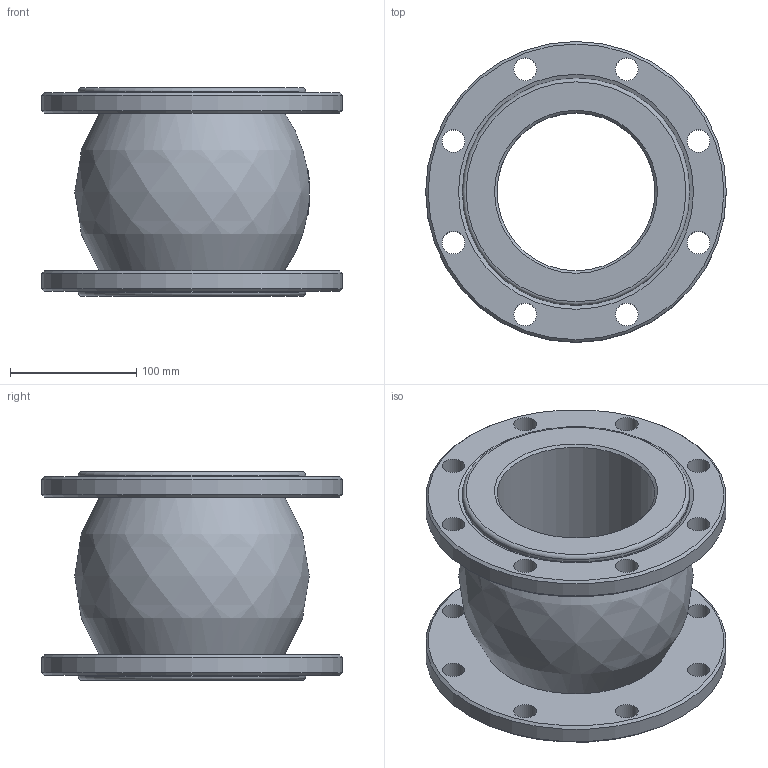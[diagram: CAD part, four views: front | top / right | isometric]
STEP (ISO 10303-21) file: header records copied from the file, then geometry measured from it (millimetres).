
FILE_DESCRIPTION(/* description */ ('D140-02177','CAx-IF Rec.Pracs.---Representation and Presentation of Product Manufacturing Information (PMI)---4.0---2014-10-13'),/* implementation_level */ '2;1');
FILE_NAME(/* name */ '',/* time_stamp */ '2026-04-30T11:21:57+03:00',/* author */ ('DN.RU'),/* organization */ ('DN.RU'),/* preprocessor_version */ 'ST-DEVELOPER v20',/* originating_system */ 'Autodesk Inventor 2025',/* authorisation */ '');
FILE_SCHEMA (('AP242_MANAGED_MODEL_BASED_3D_ENGINEERING_MIM_LF { 1 0 10303 442 1 1 4 }'));
Length unit declared in the file: millimetre
Products named in the file (1): CR-E25-F
Bounding box: 238 x 238 x 165 mm (x, y, z)
Volume: 2477040.6 mm3; surface area: 287820.2 mm2
Topology: 1 solids, 1 shells, 107 faces, 288 edges, 190 vertices
Faces by surface type: plane 43, bspline 34, cylinder 21, cone 7, torus 2
Full cylindrical faces by diameter (mm): 18 x16, 125 x1, 180 x2, 238 x2
Entity records: 4553 total; most frequent: CARTESIAN_POINT 1627, ORIENTED_EDGE 576, DIRECTION 552, EDGE_CURVE 288, AXIS2_PLACEMENT_3D 232, VERTEX_POINT 190, EDGE_LOOP 148, CIRCLE 145
